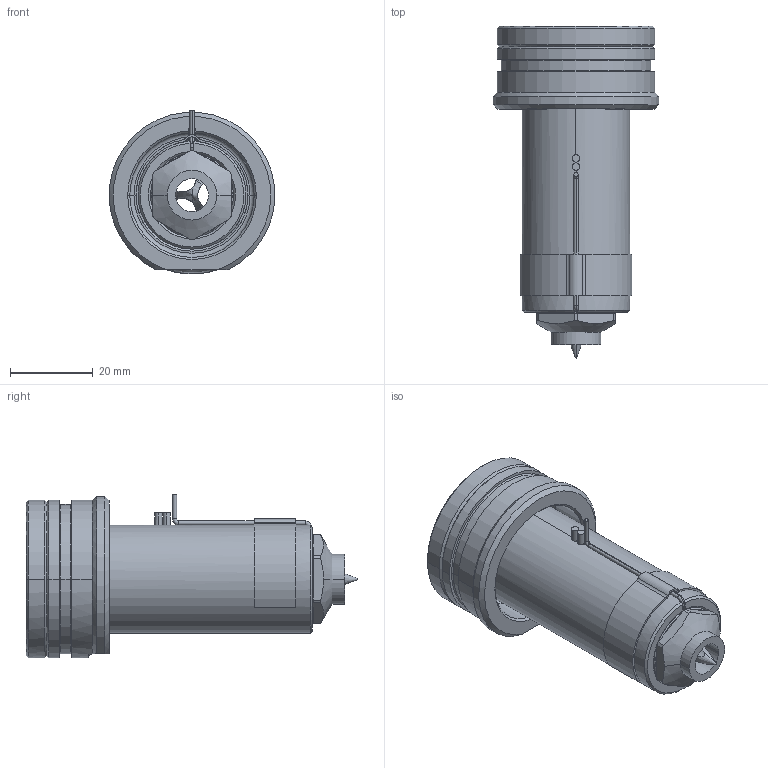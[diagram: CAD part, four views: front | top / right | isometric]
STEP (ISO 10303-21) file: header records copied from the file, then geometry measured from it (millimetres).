
FILE_DESCRIPTION((''),'2;1');
FILE_NAME('EO08_PG-BL_WR_060_SW','2024-02-19T11:06:09',('sundharh'),(''),'CREO PARAMETRIC BY PTC INC, 2023154','CREO PARAMETRIC BY PTC INC, 2023154','');
FILE_SCHEMA(('CONFIG_CONTROL_DESIGN'));
Length unit declared in the file: millimetre
Products named in the file (1): EO08_PG-BL_WR_060_SW
Bounding box: 39.88 x 80 x 39.52 mm (x, y, z)
Volume: 44598.7 mm3; surface area: 15136.7 mm2
Topology: 1 solids, 1 shells, 203 faces, 542 edges, 336 vertices
Faces by surface type: cylinder 79, plane 58, cone 41, torus 19, bspline 4, sphere 2
Entity records: 7840 total; most frequent: CARTESIAN_POINT 2657, DIRECTION 1140, ORIENTED_EDGE 1076, EDGE_CURVE 538, AXIS2_PLACEMENT_3D 476, VERTEX_POINT 336, CIRCLE 277, EDGE_LOOP 220
